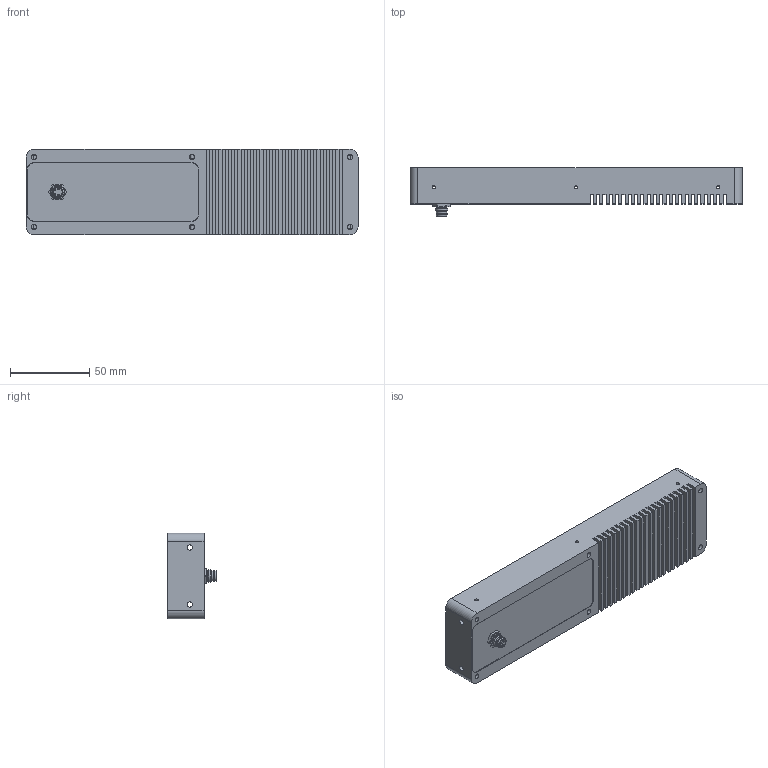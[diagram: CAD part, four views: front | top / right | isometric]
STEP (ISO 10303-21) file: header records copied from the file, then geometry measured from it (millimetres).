
FILE_DESCRIPTION (( 'STEP AP214' ), '1' );
FILE_NAME ('01713.00 Basisbaugruppe WBL-0420 Step17082020.STEP', '2020-08-17T12:02:56', ( '' ), ( '' ), 'SwSTEP 2.0', 'SolidWorks 2013', '' );
FILE_SCHEMA (( 'AUTOMOTIVE_DESIGN' ));
Length unit declared in the file: millimetre
Products named in the file (1): 01713.00 Basisbaugruppe WBL-0420 Step17082020
Bounding box: 210 x 30.8 x 54 mm (x, y, z)
Surface area: 53732.8 mm2 (no closed solid volume)
Topology: 0 solids, 9 shells, 171 faces, 510 edges, 350 vertices
Faces by surface type: plane 121, cylinder 43, cone 5, bspline 2
Full cylindrical faces by diameter (mm): 1 x4, 2.05 x6, 3.3 x10, 5.8 x1, 6.5 x2, 6.9 x1, 8 x1
Entity records: 8104 total; most frequent: CARTESIAN_POINT 1734, DIRECTION 900, ORIENTED_EDGE 855, EDGE_CURVE 470, VECTOR 350, LINE 350, VERTEX_POINT 342, AXIS2_PLACEMENT_3D 275
